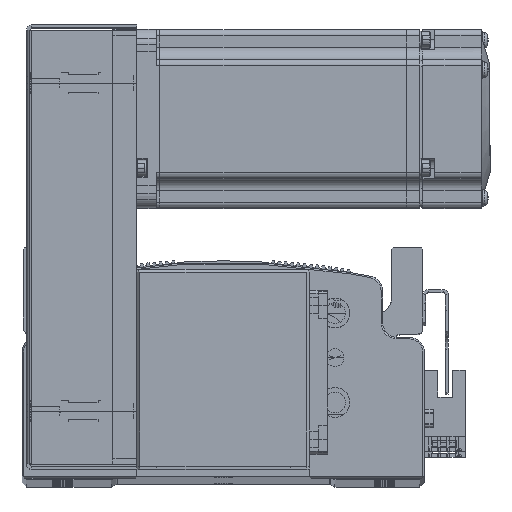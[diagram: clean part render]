
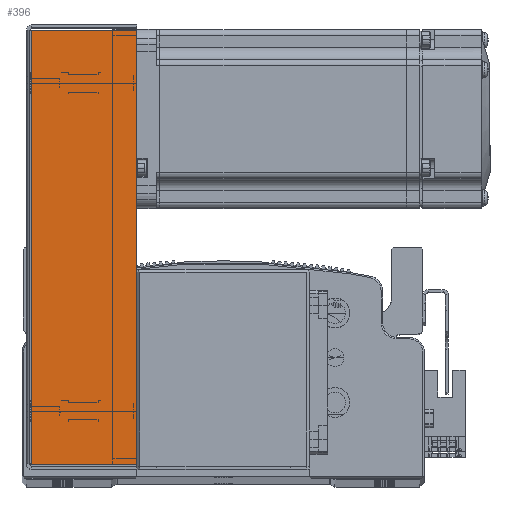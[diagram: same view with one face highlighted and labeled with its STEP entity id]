
A CAD part, top view. The second image highlights one B-rep face of the part: STEP entity #396.
In plain terms, the highlighted planar face has unit normal (0, 0, 1).
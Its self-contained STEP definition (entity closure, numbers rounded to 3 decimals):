
#396 = ADVANCED_FACE ( 'NONE', ( #55799 ), #36261, .F. ) ;
#4546 = DIRECTION ( 'NONE',  ( 0., 1., 0. ) ) ;
#4591 = CARTESIAN_POINT ( 'NONE',  ( -72.793, 0., 34.5 ) ) ;
#5443 = CARTESIAN_POINT ( 'NONE',  ( -74.5, 0.737, 34.5 ) ) ;
#5508 = DIRECTION ( 'NONE',  ( -1., 0., 0. ) ) ;
#5648 = DIRECTION ( 'NONE',  ( 0., 1., 0. ) ) ;
#5673 = CARTESIAN_POINT ( 'NONE',  ( 72.793, 0., 34.5 ) ) ;
#5685 = DIRECTION ( 'NONE',  ( -1., 0., 0. ) ) ;
#5686 = CARTESIAN_POINT ( 'NONE',  ( 0., 36., 34.5 ) ) ;
#9951 = VERTEX_POINT ( 'NONE', #28891 ) ;
#10016 = VERTEX_POINT ( 'NONE', #28901 ) ;
#10036 = VERTEX_POINT ( 'NONE', #28883 ) ;
#10070 = VERTEX_POINT ( 'NONE', #28937 ) ;
#23376 = ORIENTED_EDGE ( 'NONE', *, *, #78458, .T. ) ;
#23377 = ORIENTED_EDGE ( 'NONE', *, *, #78463, .T. ) ;
#23417 = ORIENTED_EDGE ( 'NONE', *, *, #78282, .F. ) ;
#23436 = ORIENTED_EDGE ( 'NONE', *, *, #78418, .F. ) ;
#28662 = AXIS2_PLACEMENT_3D ( 'NONE', #36175, #36271, #36183 ) ;
#28883 = CARTESIAN_POINT ( 'NONE',  ( -72.793, 0.737, 34.5 ) ) ;
#28891 = CARTESIAN_POINT ( 'NONE',  ( 72.793, 0.737, 34.5 ) ) ;
#28901 = CARTESIAN_POINT ( 'NONE',  ( -72.793, 36., 34.5 ) ) ;
#28937 = CARTESIAN_POINT ( 'NONE',  ( 72.793, 36., 34.5 ) ) ;
#36175 = CARTESIAN_POINT ( 'NONE',  ( 0., 0., 34.5 ) ) ;
#36183 = DIRECTION ( 'NONE',  ( -1., 0., 0. ) ) ;
#36261 = PLANE ( 'NONE',  #28662 ) ;
#36271 = DIRECTION ( 'NONE',  ( 0., 0., -1. ) ) ;
#55799 = FACE_OUTER_BOUND ( 'NONE', #58584, .T. ) ;
#58584 = EDGE_LOOP ( 'NONE', ( #23436, #23376, #23377, #23417 ) ) ;
#63015 = LINE ( 'NONE', #4591, #63016 ) ;
#63016 = VECTOR ( 'NONE', #4546, 1000. ) ;
#63269 = VECTOR ( 'NONE', #5508, 1000. ) ;
#63296 = LINE ( 'NONE', #5443, #63269 ) ;
#63312 = LINE ( 'NONE', #5673, #63326 ) ;
#63316 = VECTOR ( 'NONE', #5685, 1000. ) ;
#63326 = VECTOR ( 'NONE', #5648, 1000. ) ;
#63327 = LINE ( 'NONE', #5686, #63316 ) ;
#78282 = EDGE_CURVE ( 'NONE', #10036, #10016, #63015, .T. ) ;
#78418 = EDGE_CURVE ( 'NONE', #9951, #10036, #63296, .T. ) ;
#78458 = EDGE_CURVE ( 'NONE', #9951, #10070, #63312, .T. ) ;
#78463 = EDGE_CURVE ( 'NONE', #10070, #10016, #63327, .T. ) ;
